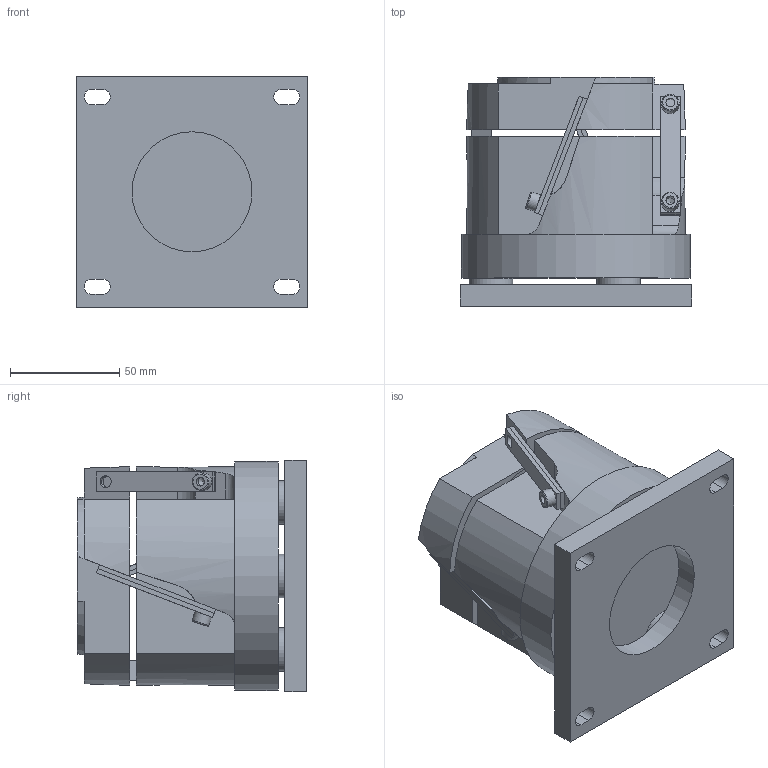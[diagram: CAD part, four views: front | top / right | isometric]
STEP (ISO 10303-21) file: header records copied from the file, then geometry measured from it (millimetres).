
FILE_DESCRIPTION(/* description */ (''),/* implementation_level */ '2;1');
FILE_NAME(/* name */ 'JM100.stp',/* time_stamp */ '2022-04-19T10:16:29+08:00',/* author */ (''),/* organization */ (''),/* preprocessor_version */ 'ST-DEVELOPER v18.102',/* originating_system */ 'SIEMENS PLM Software NX 2019',/* authorisation */ '');
FILE_SCHEMA (('AUTOMOTIVE_DESIGN { 1 0 10303 214 3 1 1 1 }'));
Length unit declared in the file: millimetre
Products named in the file (1): JM100-D_stp_objects
Bounding box: 106 x 105 x 106 mm (x, y, z)
Volume: 680853.1 mm3; surface area: 105453.7 mm2
Topology: 15 solids, 15 shells, 203 faces, 472 edges, 307 vertices
Faces by surface type: plane 129, cylinder 64, cone 5, torus 5
Full cylindrical faces by diameter (mm): 4 x5, 5 x1, 5.5 x16, 8 x5, 20 x3, 22 x3, 55 x1, 68 x1, 105 x1
Entity records: 5653 total; most frequent: DIRECTION 965, CARTESIAN_POINT 957, ORIENTED_EDGE 826, EDGE_CURVE 413, AXIS2_PLACEMENT_3D 354, VERTEX_POINT 298, EDGE_LOOP 288, LINE 257
